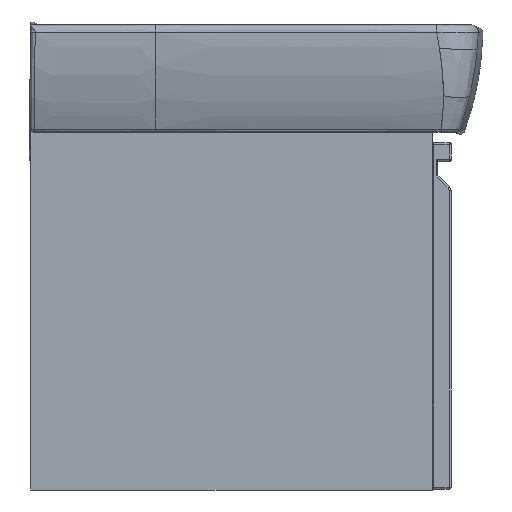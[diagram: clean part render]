
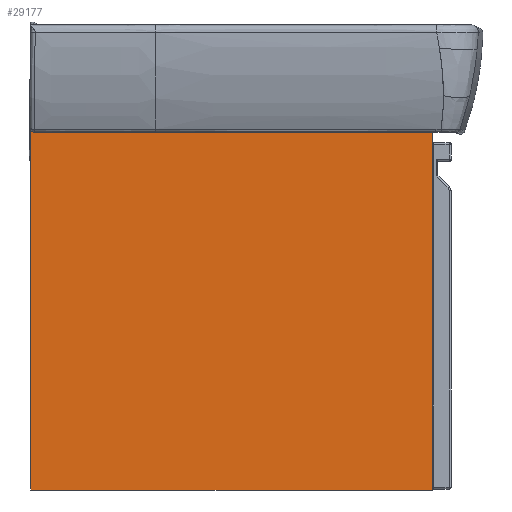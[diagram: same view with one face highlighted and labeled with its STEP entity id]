
A CAD part, left-side view. The second image highlights one B-rep face of the part: STEP entity #29177.
In plain terms, the highlighted planar face has unit normal (-1, 0, 0).
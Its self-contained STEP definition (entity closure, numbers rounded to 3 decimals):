
#4527=FACE_OUTER_BOUND('',#5966,.T.);
#5966=EDGE_LOOP('',(#23689,#23690,#23691,#23692));
#7484=LINE('',#87697,#9752);
#7488=LINE('',#87704,#9756);
#7491=LINE('',#87711,#9759);
#7493=LINE('',#87714,#9761);
#9752=VECTOR('',#34513,430.);
#9756=VECTOR('',#34519,387.);
#9759=VECTOR('',#34526,387.);
#9761=VECTOR('',#34530,430.);
#14223=VERTEX_POINT('',#87694);
#14224=VERTEX_POINT('',#87696);
#14226=VERTEX_POINT('',#87702);
#14228=VERTEX_POINT('',#87710);
#18510=EDGE_CURVE('',#14224,#14223,#7484,.T.);
#18514=EDGE_CURVE('',#14226,#14223,#7488,.T.);
#18517=EDGE_CURVE('',#14228,#14224,#7491,.T.);
#18519=EDGE_CURVE('',#14226,#14228,#7493,.T.);
#23689=ORIENTED_EDGE('',*,*,#18510,.T.);
#23690=ORIENTED_EDGE('',*,*,#18514,.F.);
#23691=ORIENTED_EDGE('',*,*,#18519,.T.);
#23692=ORIENTED_EDGE('',*,*,#18517,.T.);
#27966=PLANE('',#31818);
#29177=ADVANCED_FACE('',(#4527),#27966,.T.);
#31818=AXIS2_PLACEMENT_3D('',#87713,#34528,#34529);
#34513=DIRECTION('',(0.,1.,0.));
#34519=DIRECTION('',(0.,0.,1.));
#34526=DIRECTION('',(0.,0.,1.));
#34528=DIRECTION('center_axis',(-1.,0.,0.));
#34529=DIRECTION('ref_axis',(0.,0.,1.));
#34530=DIRECTION('',(0.,-1.,0.));
#87694=CARTESIAN_POINT('',(2304.857,776.393,-19.819));
#87696=CARTESIAN_POINT('',(2304.857,346.393,-19.819));
#87697=CARTESIAN_POINT('',(2304.857,346.393,-19.819));
#87702=CARTESIAN_POINT('',(2304.857,776.393,-406.819));
#87704=CARTESIAN_POINT('',(2304.857,776.393,-406.819));
#87710=CARTESIAN_POINT('',(2304.857,346.393,-406.819));
#87711=CARTESIAN_POINT('',(2304.857,346.393,-406.819));
#87713=CARTESIAN_POINT('Origin',(2304.857,346.393,-406.819));
#87714=CARTESIAN_POINT('',(2304.857,776.393,-406.819));
